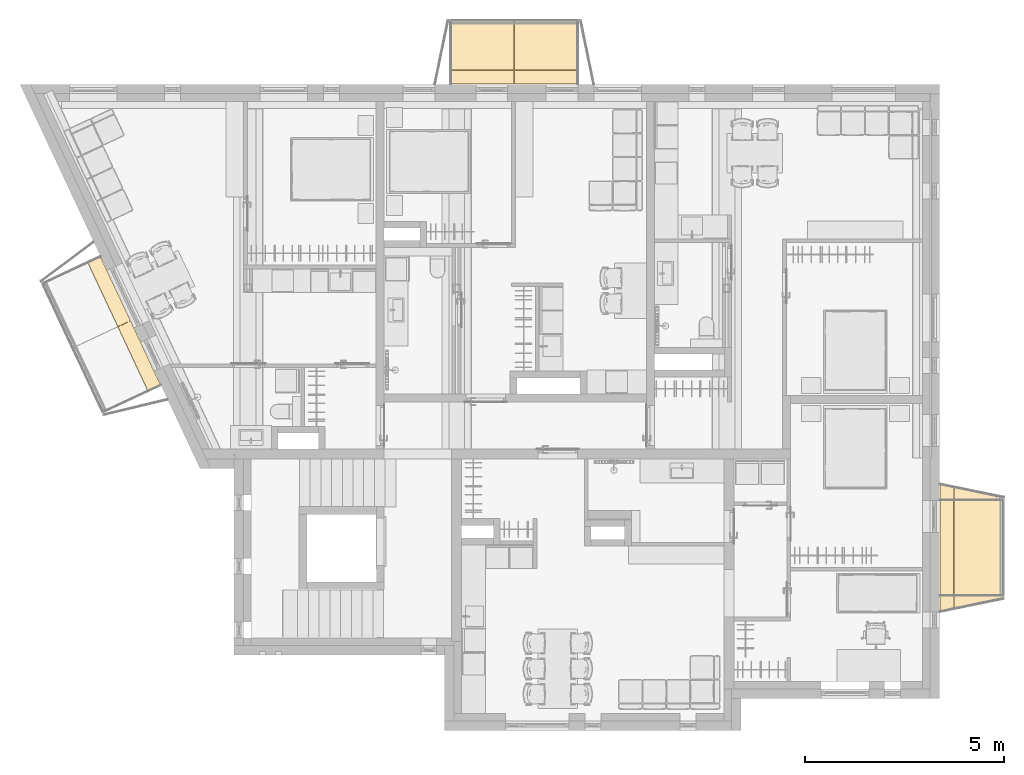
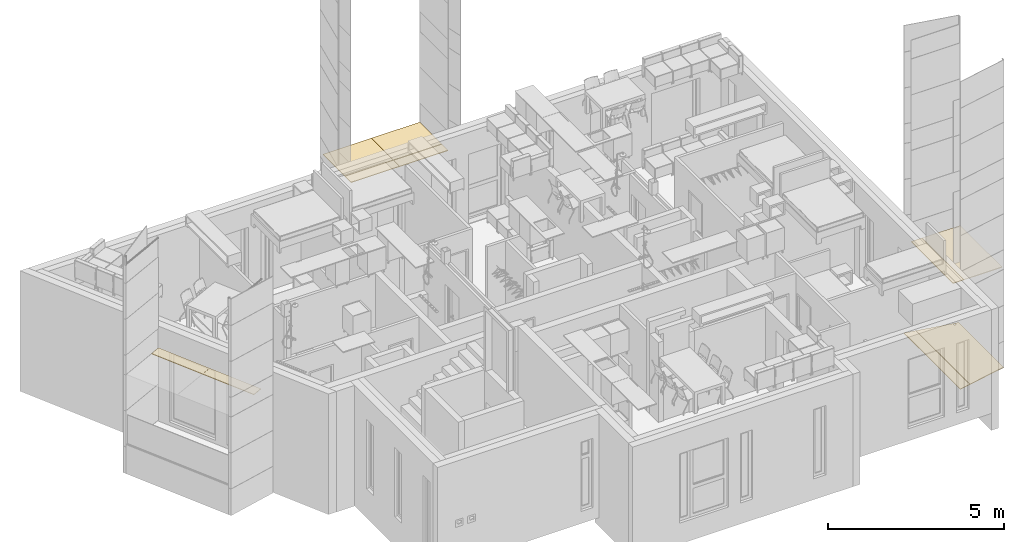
# One storey, part 46 of 125: 9 coverings.
"""IFC2X3 building model written with IfcOpenShell, lengths in millimetres."""

import ifcopenshell
import ifcopenshell.guid

model = None  # the IFC model being written
_history = None  # IfcOwnerHistory: only IFC2X3 demands one
_inside = {}  # id of a spatial element -> (the spatial element, [elements in it])
_under = {}  # id of a project, library or spatial element -> (it, [spatial elements below it])
_declared = {}  # id of a project -> (the project, [libraries it declares])
_typed = {}  # id of a type object -> (the type object, [elements of that type])
_made_of = {}  # id of a material, layer set ... -> (it, [elements and type objects made of it])


def new_model(schema):
    """Start an empty IFC model of exactly this schema.

    Asked for "IFC4X3", IfcOpenShell would pick the latest addendum, in which some entities
    have other attributes; the version numbers below select the first issue.
    IFC2X3 requires an IfcOwnerHistory on every rooted entity: one is made here for all.
    """
    global model, _history
    if schema == "IFC4X3":
        model = ifcopenshell.file(schema_version=(4, 3, 0, 0))
    else:
        model = ifcopenshell.file(schema=schema)
    _inside.clear()
    _under.clear()
    _declared.clear()
    _typed.clear()
    _made_of.clear()
    _history = None
    if model.schema == "IFC2X3":
        org = make("IfcOrganization", Name="unknown")
        user = make(
            "IfcPersonAndOrganization",
            ThePerson=make("IfcPerson", FamilyName="unknown"),
            TheOrganization=org,
        )
        app = make(
            "IfcApplication",
            ApplicationDeveloper=org,
            Version="unknown",
            ApplicationFullName="unknown",
            ApplicationIdentifier="unknown",
        )
        _history = make(
            "IfcOwnerHistory",
            OwningUser=user,
            OwningApplication=app,
            ChangeAction="ADDED",
            CreationDate=0,
        )
    return model


def make(cls, **values):
    """One entity of the class cls with the attributes given. An attribute that is None is left unset."""
    return model.create_entity(
        cls, **{name: value for name, value in values.items() if value is not None}
    )


def entity(cls, *values):
    """Any entity or typed value of the class cls, its attributes in the order of the schema. None: left unset."""
    e = model.create_entity(cls)
    for i, value in enumerate(values):
        if value is not None:
            e[i] = value
    return e


def rooted(cls, **values):
    """An entity with a GlobalId (a new one), such as an element, a storey or a relation."""
    return make(cls, GlobalId=ifcopenshell.guid.new(), OwnerHistory=_history, **values)


def si_unit(unit_type, name, prefix=None):
    """IfcSIUnit, for example si_unit("LENGTHUNIT", "METRE", prefix="MILLI")."""
    return make("IfcSIUnit", UnitType=unit_type, Prefix=prefix, Name=name)


def converted_unit(unit_type, name, factor, base, dimensions=None, offset=None):
    """IfcConversionBasedUnit, such as the inch: factor (a typed value) times the base unit."""
    return make(
        "IfcConversionBasedUnit"
        if offset is None
        else "IfcConversionBasedUnitWithOffset",
        ConversionOffset=offset,
        Dimensions=None
        if dimensions is None
        else entity("IfcDimensionalExponents", *dimensions),
        UnitType=unit_type,
        Name=name,
        ConversionFactor=make(
            "IfcMeasureWithUnit", ValueComponent=factor, UnitComponent=base
        ),
    )


def assignment(units):
    """IfcUnitAssignment: the units of a project."""
    return None if units is None else make("IfcUnitAssignment", Units=units)


def point(xyz):
    """IfcCartesianPoint."""
    return None if xyz is None else make("IfcCartesianPoint", Coordinates=xyz)


def direction(xyz):
    """IfcDirection."""
    return None if xyz is None else make("IfcDirection", DirectionRatios=xyz)


def frame(location, z_axis=None, x_axis=None):
    """IfcAxis2Placement3D, a coordinate frame: its origin and axes. An axis left out is left unset."""
    return make(
        "IfcAxis2Placement3D",
        Location=point(location),
        Axis=direction(z_axis),
        RefDirection=direction(x_axis),
    )


def frame_2d(location, x_axis=None):
    """IfcAxis2Placement2D, a coordinate frame in the plane: its origin and x axis."""
    return make(
        "IfcAxis2Placement2D", Location=point(location), RefDirection=direction(x_axis)
    )


def origin():
    """The frame at (0, 0, 0) with its axes left unset."""
    return frame((0.0, 0.0, 0.0))


def origin_2d_with_axis():
    """The frame at (0, 0) in the plane with the x axis (1, 0) written out."""
    return frame_2d((0.0, 0.0), x_axis=(1.0, 0.0))


def place(relative_to, where):
    """IfcLocalPlacement: puts the frame where relative to a parent placement (None: the world)."""
    return make(
        "IfcLocalPlacement", PlacementRelTo=relative_to, RelativePlacement=where
    )


def context(
    kind, dimensions, precision=None, world=None, true_north=None, identifier=None
):
    """IfcGeometricRepresentationContext, for example the 3D "Model" context."""
    return make(
        "IfcGeometricRepresentationContext",
        ContextIdentifier=identifier,
        ContextType=kind,
        CoordinateSpaceDimension=dimensions,
        Precision=precision,
        WorldCoordinateSystem=world,
        TrueNorth=true_north,
    )


def subcontext(parent, identifier, kind, view, scale=None):
    """IfcGeometricRepresentationSubContext, for example "Body" below "Model"."""
    return make(
        "IfcGeometricRepresentationSubContext",
        ContextIdentifier=identifier,
        ContextType=kind,
        ParentContext=parent,
        TargetScale=scale,
        TargetView=view,
    )


def project(units=None, contexts=None):
    """IfcProject with its units and contexts."""
    return rooted(
        "IfcProject",
        Name="project",
        RepresentationContexts=contexts,
        UnitsInContext=assignment(units),
    )


def spatial(cls, under=None, at=None, **own):
    """A site, building, storey or space (cls), placed at a placement, below another one or the project."""
    s = rooted(cls, ObjectPlacement=at, **own)
    if under is not None:
        _under.setdefault(under.id(), (under, []))[1].append(s)
    return s


def polyline(points):
    """IfcPolyline through the points."""
    return make("IfcPolyline", Points=[point(p) for p in points])


def circle_curve(where, radius):
    """IfcCircle in the frame where."""
    return make("IfcCircle", Position=where, Radius=radius)


def parameter(value):
    """IfcParameterValue: where a trimmed curve begins or ends, as a parameter of its basis curve."""
    return model.create_entity("IfcParameterValue", value)


def trimmed(basis, trim1, trim2, sense, master):
    """IfcTrimmedCurve: the piece of a basis curve between two trims."""
    return make(
        "IfcTrimmedCurve",
        BasisCurve=basis,
        Trim1=trim1,
        Trim2=trim2,
        SenseAgreement=sense,
        MasterRepresentation=master,
    )


def segment(curve, same_sense, transition):
    """IfcCompositeCurveSegment."""
    return make(
        "IfcCompositeCurveSegment",
        Transition=transition,
        SameSense=same_sense,
        ParentCurve=curve,
    )


def composite_curve(segments, self_intersect=None):
    """IfcCompositeCurve: segments joined end to end."""
    return make("IfcCompositeCurve", Segments=segments, SelfIntersect=self_intersect)


def profile(cls, at=None, kind="AREA", **sizes):
    """A parametric profile (cls). Its sizes go by their IFC names, for example OverallWidth=200.0."""
    return make(cls, ProfileType=kind, Position=at, **sizes)


def rectangle(**sizes):
    """IfcRectangleProfileDef."""
    return profile("IfcRectangleProfileDef", **sizes)


def outline(outer, holes=None, kind="AREA"):
    """IfcArbitraryClosedProfileDef: a profile drawn as a closed curve; with holes, ...WithVoids."""
    if holes is None:
        return make("IfcArbitraryClosedProfileDef", ProfileType=kind, OuterCurve=outer)
    return make(
        "IfcArbitraryProfileDefWithVoids",
        ProfileType=kind,
        OuterCurve=outer,
        InnerCurves=holes,
    )


def extrude(swept, where, along, depth):
    """IfcExtrudedAreaSolid: the profile swept, set in the frame where, extruded along a direction by depth."""
    return make(
        "IfcExtrudedAreaSolid",
        SweptArea=swept,
        Position=where,
        ExtrudedDirection=direction(along),
        Depth=depth,
    )


def shape(context_of_items, identifier, shape_type, items):
    """IfcShapeRepresentation: the items that make up one representation, for example the "Body"."""
    return make(
        "IfcShapeRepresentation",
        ContextOfItems=context_of_items,
        RepresentationIdentifier=identifier,
        RepresentationType=shape_type,
        Items=items,
    )


def material(Name=None, Category=None):
    """IfcMaterial."""
    return make("IfcMaterial", Name=Name, Category=Category)


def layer(
    of_material, thickness, ventilated=None, Name=None, Category=None, Priority=None
):
    """IfcMaterialLayer: one layer of a wall or slab, of a material (None: an air gap)."""
    return make(
        "IfcMaterialLayer",
        Material=of_material,
        LayerThickness=thickness,
        IsVentilated=ventilated,
        Name=Name,
        Category=Category,
        Priority=Priority,
    )


def layer_set(layers, Name=None):
    """IfcMaterialLayerSet."""
    return make("IfcMaterialLayerSet", MaterialLayers=layers, LayerSetName=Name)


def layer_usage(for_layer_set, set_direction, sense, offset, extent=None):
    """IfcMaterialLayerSetUsage: how a layer set lies in its element."""
    return make(
        "IfcMaterialLayerSetUsage",
        ForLayerSet=for_layer_set,
        LayerSetDirection=set_direction,
        DirectionSense=sense,
        OffsetFromReferenceLine=offset,
        ReferenceExtent=extent,
    )


def made_of(thing, what):
    """Note that an element or type object is made of a material, layer set ...; save() writes the relation."""
    if what is not None:
        _made_of.setdefault(what.id(), (what, []))[1].append(thing)
    return thing


def type_object(cls, material=None, **own):
    """A type object (cls), such as IfcWallType, which elements share."""
    return made_of(rooted(cls, **own), material)


def element(
    cls,
    number,
    at=None,
    inside=None,
    cuts=None,
    type_object=None,
    material=None,
    context=None,
    identifier="Body",
    shape_type=None,
    held_by="IfcProductDefinitionShape",
    body=None,
    shapes=None,
    **own,
):
    """One element of the class cls, such as IfcWall. Its Tag is "e" and its number.

    at: its placement. inside: the storey or other place that contains it. cuts: it is an
    opening in that element (IfcRelVoidsElement). A single representation is given by context,
    identifier, shape_type and body (its items); several are given by shapes. held_by: the class
    of the entity that holds the representations. save() writes the other relations.
    """
    e = rooted(cls, Tag="e%d" % number, ObjectPlacement=at, **own)
    if body is not None:
        shapes = [shape(context, identifier, shape_type, body)]
    if shapes is not None:
        e.Representation = make(held_by, Representations=shapes)
    if inside is not None:
        _inside.setdefault(inside.id(), (inside, []))[1].append(e)
    if cuts is not None:
        rooted(
            "IfcRelVoidsElement", RelatingBuildingElement=cuts, RelatedOpeningElement=e
        )
    if type_object is not None:
        _typed.setdefault(type_object.id(), (type_object, []))[1].append(e)
    return made_of(e, material)


def aggregate(whole, parts):
    """IfcRelAggregates: a whole, such as a stair, and the parts it consists of."""
    return rooted("IfcRelAggregates", RelatingObject=whole, RelatedObjects=parts)


def save(model, path):
    """Write the relations noted so far, then the file.

    IfcRelAggregates (storeys below a building ...), IfcRelContainedInSpatialStructure (elements
    in a storey), IfcRelDefinesByType, IfcRelAssociatesMaterial and IfcRelDeclares: one each for
    every whole, place, type object, material and project.
    """
    for whole, parts in _under.values():
        aggregate(whole, parts)
    for where, things in _inside.values():
        rooted(
            "IfcRelContainedInSpatialStructure",
            RelatedElements=things,
            RelatingStructure=where,
        )
    for kind, things in _typed.values():
        rooted("IfcRelDefinesByType", RelatedObjects=things, RelatingType=kind)
    for what, things in _made_of.values():
        rooted("IfcRelAssociatesMaterial", RelatedObjects=things, RelatingMaterial=what)
    for by, libraries in _declared.values():
        rooted("IfcRelDeclares", RelatingContext=by, RelatedDefinitions=libraries)
    model.write(path)


model = new_model("IFC2X3")

# Units and contexts
model_context = context("Model", 3, precision=0.01, world=origin(), true_north=direction((6.123233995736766e-17, 1.0)))
plan_context = context("Plan", 3, precision=0.01, world=origin(), true_north=direction((6.123233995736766e-17, 1.0)))
body_context = subcontext(model_context, "Body", "Model", "MODEL_VIEW")
ifc_project = project(units=[si_unit("LENGTHUNIT", "METRE", prefix="MILLI"), converted_unit("PLANEANGLEUNIT", "DEGREE", entity("IfcPlaneAngleMeasure", 0.017453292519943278), si_unit("PLANEANGLEUNIT", "RADIAN"), dimensions=[0, 0, 0, 0, 0, 0, 0]), si_unit("AREAUNIT", "SQUARE_METRE")], contexts=[model_context, plan_context])

# Site, building, storey
site_placement = place(None, origin())
site = spatial("IfcSite", under=ifc_project, at=site_placement, Name="Default", CompositionType="ELEMENT")
building_placement = place(site_placement, origin())
building = spatial("IfcBuilding", under=site, at=building_placement, CompositionType="ELEMENT")
storey_placement = place(building_placement, frame((0.0, 0.0, 3125.0)))
storey = spatial("IfcBuildingStorey", under=building, at=storey_placement, Name="2K", CompositionType="ELEMENT", Elevation=3125.0)

# Coverings
ifc_material_1 = material(Name="_K. Õhk. Roov. Fassaadikatte alusroov. Horisontaalne. 25 mm")
ifc_layer_1 = layer(ifc_material_1, 16.0)
ifc_material_2 = material(Name="_K. Välisviimistlus. Alumiinium-komposiitplaat")
ifc_layer_2 = layer(ifc_material_2, 4.0)
ifc_layer_set = layer_set([ifc_layer_1, ifc_layer_2], Name="Compound Ceiling:Valge rõdud")
ifc_layer_usage_1 = layer_usage(ifc_layer_set, "AXIS3", "NEGATIVE", 20.0)
covering_type = type_object("IfcCoveringType", Name="Compound Ceiling:Valge rõdud", PredefinedType="CEILING")
covering_1_placement = place(storey_placement, frame((-4107.266617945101, 8125.138068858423, 2407.5000000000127)))
element("IfcCovering", 1, at=covering_1_placement, inside=storey, type_object=covering_type, material=ifc_layer_usage_1, Name="Compound Ceiling:Valge rõdud", ObjectType="Compound Ceiling:Valge rõdud", PredefinedType="CEILING", context=body_context, shape_type="SweptSolid", body=[
    extrude(outline(polyline([(-175.01463098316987, -885.2257435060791), (175.00597873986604, -885.2257435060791), (175.01463097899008, 885.2248882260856), (-175.00597873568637, 885.2265987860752), (-175.01463098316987, -885.2257435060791)])), frame((1287.7537691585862, 875.816105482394, 0.0), z_axis=(0.0, 0.0, 1.0), x_axis=(0.9054558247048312, 0.42444051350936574, 0.0)), (0.0, 0.0, 1.0), 19.99999999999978),
    extrude(outline(polyline([(-175.0103048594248, -885.2257435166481), (175.01030485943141, -885.2257435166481), (175.0103048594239, 885.2248882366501), (-175.01030485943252, 885.2265987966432), (-175.0103048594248, -885.2257435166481)])), frame((534.1865779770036, 2483.4158928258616, 0.0), z_axis=(0.0, 0.0, 1.0), x_axis=(0.9054578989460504, 0.4244360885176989, 0.0)), (0.0, 0.0, 1.0), 19.999999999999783),
])
ifc_layer_usage_2 = layer_usage(ifc_layer_set, "AXIS3", "NEGATIVE", 20.0)
covering_2_placement = place(storey_placement, frame((17692.0, 2629.2710524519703, -1010.0)))
element("IfcCovering", 2, at=covering_2_placement, inside=storey, type_object=covering_type, material=ifc_layer_usage_2, Name="Compound Ceiling:Valge rõdud", ObjectType="Compound Ceiling:Valge rõdud", PredefinedType="CEILING", context=body_context, shape_type="SweptSolid", body=[
    extrude(outline(polyline([(-1532.3989473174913, -625.0), (1532.3989473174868, -625.0), (1274.6072806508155, 625.0), (-1274.6072806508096, 625.0), (-1532.3989473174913, -625.0)]), holes=[composite_curve([segment(trimmed(circle_curve(frame_2d((-1253.68321680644, 483.664283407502), x_axis=(0.0, 1.0)), 35.0), [parameter(0.0)], [parameter(180.00000000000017)], True, "PARAMETER"), False, "CONTINUOUS"), segment(trimmed(circle_curve(frame_2d((-1253.68321680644, 483.664283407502), x_axis=(0.0, 1.0)), 35.0), [parameter(180.00000000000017)], [parameter(0.0)], True, "PARAMETER"), False, "CONTINUOUS")], self_intersect=False)]), frame((625.0, 1532.3989473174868, 0.0), z_axis=(0.0, 0.0, 1.0), x_axis=(0.0, -1.0, 0.0)), (0.0, 0.0, 1.0), 20.000000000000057),
])
ifc_layer_usage_3 = layer_usage(ifc_layer_set, "AXIS3", "NEGATIVE", 20.0)
covering_3_placement = place(storey_placement, frame((17338.0, 2556.2644524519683, -1010.0)))
element("IfcCovering", 3, at=covering_3_placement, inside=storey, type_object=covering_type, material=ifc_layer_usage_3, Name="Compound Ceiling:Valge rõdud", ObjectType="Compound Ceiling:Valge rõdud", PredefinedType="CEILING", context=body_context, shape_type="SweptSolid", body=[
    extrude(outline(polyline([(138.82292329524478, -1537.0707076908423), (495.16750793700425, -1537.070707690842), (-153.36071403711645, 1607.5626621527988), (-480.6297171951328, 1466.5787532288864), (138.82292329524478, -1537.0707076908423)])), frame((174.49999999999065, 1605.4055473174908, 0.0), z_axis=(0.0, 0.0, 1.0), x_axis=(-0.9793890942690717, 0.20198267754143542, 0.0)), (0.0, 0.0, 1.0), 20.00000000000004),
])
ifc_layer_usage_4 = layer_usage(ifc_layer_set, "AXIS3", "NEGATIVE", 20.0)
covering_4_placement = place(storey_placement, frame((5040.416588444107, 16192.0, 2407.4999999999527)))
element("IfcCovering", 4, at=covering_4_placement, inside=storey, type_object=covering_type, material=ifc_layer_usage_4, Name="Compound Ceiling:Valge rõdud", ObjectType="Compound Ceiling:Valge rõdud", PredefinedType="CEILING", context=body_context, shape_type="SweptSolid", body=[
    extrude(rectangle(XDim=1582.2917057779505, YDim=1249.9999999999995, at=frame_2d((-1.6484591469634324e-12, 1.1368683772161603e-12), x_axis=(1.0, 0.0))), frame((791.145852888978, 625.0, 0.0)), (0.0, 0.0, 1.0), 19.999999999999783),
])
ifc_layer_usage_5 = layer_usage(ifc_layer_set, "AXIS3", "NEGATIVE", 20.0)
covering_5_placement = place(storey_placement, frame((6627.7082942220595, 16192.0, 2407.4999999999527)))
element("IfcCovering", 5, at=covering_5_placement, inside=storey, type_object=covering_type, material=ifc_layer_usage_5, Name="Compound Ceiling:Valge rõdud", ObjectType="Compound Ceiling:Valge rõdud", PredefinedType="CEILING", context=body_context, shape_type="SweptSolid", body=[
    extrude(rectangle(XDim=1249.9999999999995, YDim=1582.2917057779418, at=frame_2d((1.0800249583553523e-12, -1.1368683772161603e-12), x_axis=(1.0, 0.0))), frame((791.1458528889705, 625.0, 0.0), z_axis=(0.0, 0.0, 1.0), x_axis=(0.0, 1.0, 0.0)), (0.0, 0.0, 1.0), 19.999999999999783),
])
ifc_layer_usage_6 = layer_usage(ifc_layer_set, "AXIS3", "NEGATIVE", 20.0)
covering_6_placement = place(storey_placement, frame((5040.416588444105, 15838.0, 2407.4999999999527)))
element("IfcCovering", 6, at=covering_6_placement, inside=storey, type_object=covering_type, material=ifc_layer_usage_6, Name="Compound Ceiling:Valge rõdud", ObjectType="Compound Ceiling:Valge rõdud", PredefinedType="CEILING", context=body_context, shape_type="SweptSolid", body=[
    extrude(rectangle(XDim=1582.2917057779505, YDim=348.9999999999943, at=origin_2d_with_axis()), frame((791.1458528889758, 174.49999999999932, 0.0)), (0.0, 0.0, 1.0), 19.999999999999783),
])
ifc_layer_usage_7 = layer_usage(ifc_layer_set, "AXIS3", "NEGATIVE", 20.0)
covering_7_placement = place(storey_placement, frame((6627.708294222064, 15838.0, 2405.0)))
element("IfcCovering", 7, at=covering_7_placement, inside=storey, type_object=covering_type, material=ifc_layer_usage_7, Name="Compound Ceiling:Valge rõdud", ObjectType="Compound Ceiling:Valge rõdud", PredefinedType="CEILING", context=body_context, shape_type="SweptSolid", body=[
    extrude(rectangle(XDim=348.9999999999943, YDim=1582.291705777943, at=frame_2d((0.0, -5.115907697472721e-13), x_axis=(1.0, 0.0))), frame((791.1458528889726, 174.49999999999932, 0.0), z_axis=(0.0, 0.0, 1.0), x_axis=(0.0, 1.0, 0.0)), (0.0, 0.0, 1.0), 19.999999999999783),
])
ifc_layer_usage_8 = layer_usage(ifc_layer_set, "AXIS3", "NEGATIVE", 20.0)
covering_8_placement = place(storey_placement, frame((17692.0, 2971.986588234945, 2407.499999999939)))
element("IfcCovering", 8, at=covering_8_placement, inside=storey, type_object=covering_type, material=ifc_layer_usage_8, Name="Compound Ceiling:Valge rõdud", ObjectType="Compound Ceiling:Valge rõdud", PredefinedType="CEILING", context=body_context, shape_type="SweptSolid", body=[
    extrude(rectangle(XDim=1249.9999999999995, YDim=2379.366823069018, at=frame_2d((1.1368683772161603e-12, -2.3874235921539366e-12), x_axis=(1.0, 0.0))), frame((625.0, 1189.6834115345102, 0.0), z_axis=(0.0, 0.0, 1.0), x_axis=(-1.0, 0.0, 0.0)), (0.0, 0.0, 1.0), 19.999999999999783),
])
ifc_layer_usage_9 = layer_usage(ifc_layer_set, "AXIS3", "NEGATIVE", 20.0)
covering_9_placement = place(storey_placement, frame((17338.0, 2971.986588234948, 2407.499999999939)))
element("IfcCovering", 9, at=covering_9_placement, inside=storey, type_object=covering_type, material=ifc_layer_usage_9, Name="Compound Ceiling:Valge rõdud", ObjectType="Compound Ceiling:Valge rõdud", PredefinedType="CEILING", context=body_context, shape_type="SweptSolid", body=[
    extrude(rectangle(XDim=348.9999999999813, YDim=2379.3668230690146, at=frame_2d((0.0, -2.2737367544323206e-13), x_axis=(1.0, 0.0))), frame((174.49999999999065, 1189.6834115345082, 0.0), z_axis=(0.0, 0.0, 1.0), x_axis=(-1.0, 0.0, 0.0)), (0.0, 0.0, 1.0), 19.999999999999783),
])

save(model, "model.ifc")
